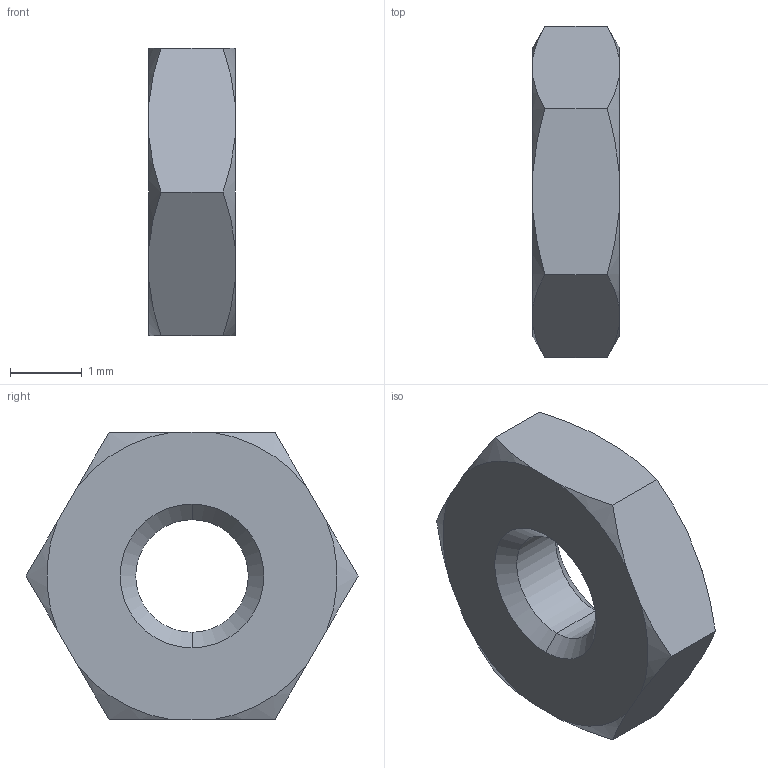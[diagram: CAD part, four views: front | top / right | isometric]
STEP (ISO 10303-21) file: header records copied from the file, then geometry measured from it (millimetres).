
FILE_DESCRIPTION(/* description */ ('VariCAD 2010-1.04 AP-203'),/* implementation_level */ '2;1');
FILE_NAME(/* name */ '0353-93-01',/* time_stamp */ '2010-01-13T15:04:53-07:00',/* author */ (''),/* organization */ (''),/* preprocessor_version */ 'ST-DEVELOPER v12',/* originating_system */ 'VariCAD 2010-1.04; kernel version (20090520)',/* authorisation */ '');
FILE_SCHEMA (('CONFIG_CONTROL_DESIGN'));
Length unit declared in the file: millimetre
Products named in the file (1): Part
Bounding box: 1.2 x 4.62 x 4 mm (x, y, z)
Volume: 13.9 mm3; surface area: 44.2 mm2
Topology: 1 solids, 1 shells, 26 faces, 68 edges, 44 vertices
Faces by surface type: cone 16, plane 8, cylinder 2
Entity records: 922 total; most frequent: CARTESIAN_POINT 260, ORIENTED_EDGE 136, DIRECTION 120, EDGE_CURVE 68, AXIS2_PLACEMENT_3D 48, VERTEX_POINT 44, EDGE_LOOP 28, ADVANCED_FACE 26
